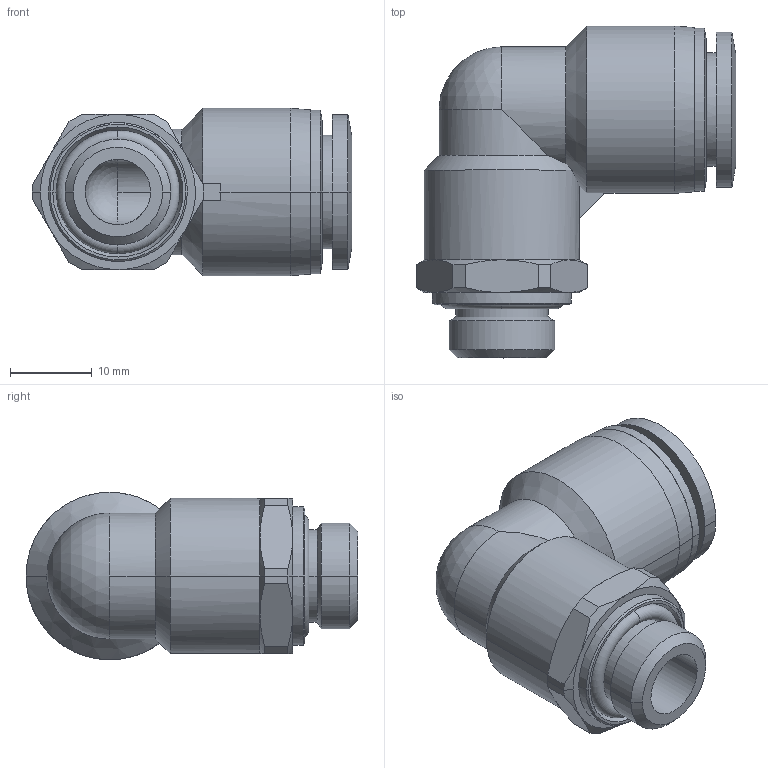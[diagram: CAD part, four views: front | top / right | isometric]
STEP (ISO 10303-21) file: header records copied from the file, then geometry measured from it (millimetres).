
FILE_DESCRIPTION (( 'STEP AP203' ), '1' );
FILE_NAME ('FL12-02.STEP', '2020-05-06T15:04:46', ( '' ), ( '' ), 'SwSTEP 2.0', 'SolidWorks 2019', '' );
FILE_SCHEMA (( 'CONFIG_CONTROL_DESIGN' ));
Length unit declared in the file: millimetre
Products named in the file (1): FL12-02
Bounding box: 39.15 x 40.65 x 20.5 mm (x, y, z)
Surface area: 6168.2 mm2 (no closed solid volume)
Topology: 0 solids, 4 shells, 94 faces, 224 edges, 138 vertices
Faces by surface type: cylinder 35, cone 32, plane 19, torus 4, bspline 2, sphere 2
Entity records: 4684 total; most frequent: CARTESIAN_POINT 2821, ORIENTED_EDGE 428, DIRECTION 239, EDGE_CURVE 222, B_SPLINE_CURVE_WITH_KNOTS 167, VERTEX_POINT 138, EDGE_LOOP 104, AXIS2_PLACEMENT_3D 97
